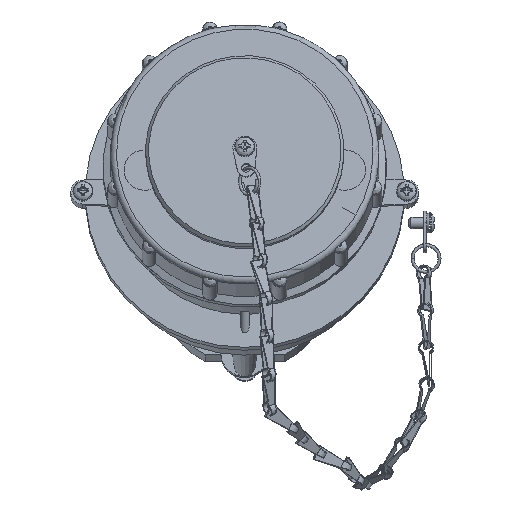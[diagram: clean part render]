
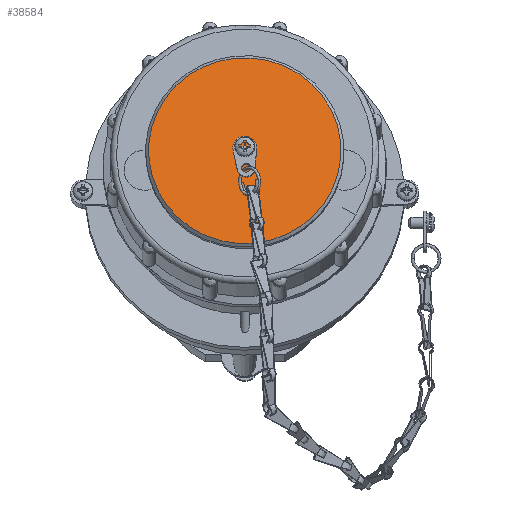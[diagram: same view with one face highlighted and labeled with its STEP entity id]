
A CAD part, front view. The second image highlights one B-rep face of the part: STEP entity #38584.
In plain terms, the highlighted planar face has unit normal (0, -0.966, 0.259).
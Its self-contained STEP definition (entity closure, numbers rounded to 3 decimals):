
#38553=CARTESIAN_POINT('',(-23.062,-45.676,123.132));
#38554=VERTEX_POINT('',#38553);
#38555=CARTESIAN_POINT('',(0.,-51.511,101.357));
#38556=DIRECTION('',(0.,0.966,-0.259));
#38557=DIRECTION('',(0.715,-0.181,-0.675));
#38558=AXIS2_PLACEMENT_3D('',#38555,#38556,#38557);
#38559=CIRCLE('',#38558,32.25);
#38560=EDGE_CURVE('',#38554,#38554,#38559,.T.);
#38576=CARTESIAN_POINT('',(-11.889,-48.503,112.582));
#38577=DIRECTION('',(0.,-0.966,0.259));
#38578=DIRECTION('',(0.715,-0.181,-0.675));
#38579=AXIS2_PLACEMENT_3D('',#38576,#38577,#38578);
#38580=PLANE('',#38579);
#38581=ORIENTED_EDGE('',*,*,#38560,.F.);
#38582=EDGE_LOOP('',(#38581));
#38583=FACE_OUTER_BOUND('',#38582,.T.);
#38584=ADVANCED_FACE('',(#38583),#38580,.T.);
